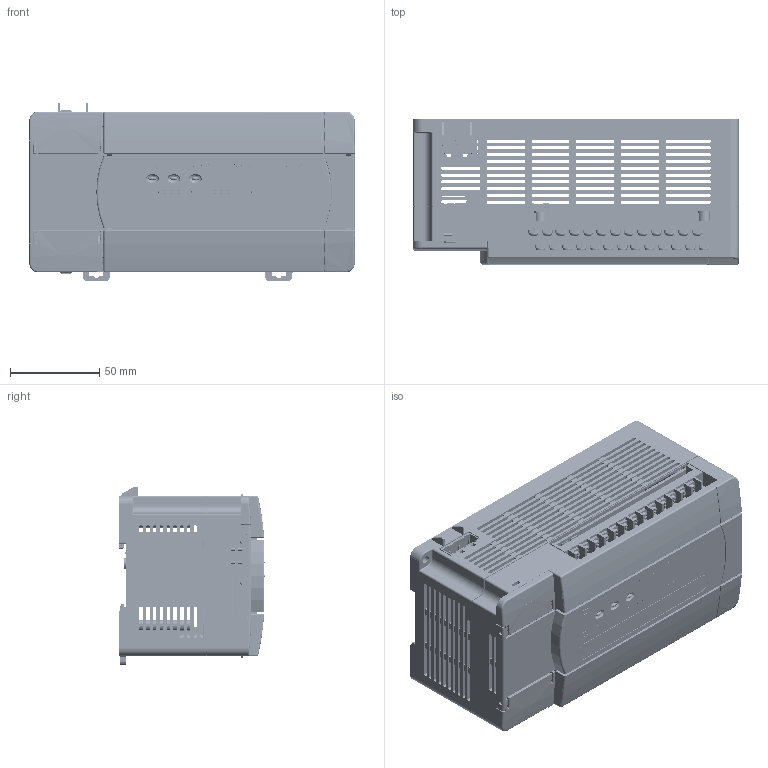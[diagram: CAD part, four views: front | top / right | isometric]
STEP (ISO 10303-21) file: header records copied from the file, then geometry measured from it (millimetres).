
FILE_DESCRIPTION((''),'2;1');
FILE_NAME('IVC1-2416MAT_ASM_ASM','2022-11-08T16:26:55',('Administrator'),(''),'CREO PARAMETRIC BY PTC INC, 2019080','CREO PARAMETRIC BY PTC INC, 2019080','');
FILE_SCHEMA(('CONFIG_CONTROL_DESIGN'));
Products named in the file (61): 80740051_4; 80740051SY2_ASM_3_ASM; 80880052_3; 40810010_ASM_3_ASM; 80740052_4; 80740052SY2_ASM_4_ASM; 80880058_4; 80880059_4; 80880050_4; 80880055_4; 80880053_3; 86400009_3; 86400008_3; 40810009_ASM_4_ASM; 2416_2; E-SR1206_2; E-SC0603_2; E-SOP4-100-173_2; E-SR0603_2; E-SD0805_2; E-SR1210_2; E-SC0805_2; E-SCD6_3X5_7_2; E-DSW5-H_2; E-PSW6-80T_2; E-SR2010_2; E-SC1206A_2; E-SR0805_2; E-SX2-1205_2; E-SC1210_2; E-SOP5-50-173_2; E-X2-80-W-B_2; E-SOT23-1A_2; E-SF3518_2; E-TP-RND0_7_2; E-RLY7-100-140_2; E-SL1307_2; E-SOP14-26-170_2; E-SOP16-50-157_2; E-IDC14-OTM_2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
Assembly tree (597 placements, depth 5):
  IVC1-2416MAT_ASM_ASM
    IVC1-2416MAT_ASM_6_ASM
      40810010_ASM_3_ASM
        80740051SY2_ASM_3_ASM
          80740051_4
        80880052_3  x2
      40810009_ASM_4_ASM
        80740052SY2_ASM_4_ASM
          80740052_4
        80880058_4
        80880059_4
        80880050_4
        80880055_4
        80880053_3
        86400009_3
        86400008_3  x5
      2416_ASM_2_ASM
        2416_2
        E-SR1206_2  x51
        E-SC0603_2  x133
        E-SOP4-100-173_2  x22
        E-SR0603_2  x214
        E-SD0805_2  x43
        E-SR1210_2
        E-SC0805_2  x8
        E-SCD6_3X5_7_2  x2
        E-DSW5-H_2
        E-PSW6-80T_2
        E-SR2010_2  x4
        E-SC1206A_2  x4
        E-SR0805_2  x8
        E-SX2-1205_2
        E-SC1210_2
        E-SOP5-50-173_2  x2
        E-X2-80-W-B_2
        E-SOT23-1A_2  x2
        E-SF3518_2  x4
        E-TP-RND0_7_2  x2
        E-RLY7-100-140_2  x16
        E-SL1307_2  x2
        E-SOP14-26-170_2  x7
        E-SOP16-50-157_2  x3
        E-IDC14-OTM_2
        E-HEAD0108-TA_2
        E-TB0213-300-365-TM_2  x2
        E-HEAD0207-TB_2
        E-PS2-10PIN_2
        E-DIN0105-5_08MM-TM_2
        E-SOT-DPAK_2
        E-SOT23_2  x10
        E-SL0805A_2  x4
        E-SOP8-50-157_2  x2
        E-QFP100-050-1414L_2
        E-SOP8-50-157A_2  x3
        E-SP-SMD60_2  x3
        E-SOP20-26-173_2
        E-SD2216_2  x6
        E-SOP16-26-180_2
        E-SBAT2-R6_8MM_2
      PLC_POWER_PCB_ASM_2_ASM
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Bounding box: 182 x 81.3 x 100 mm (x, y, z)
Volume: 286122.1 mm3; surface area: 300374.5 mm2
Topology: 590 solids, 598 shells, 29172 faces, 76388 edges, 48127 vertices
Faces by surface type: plane 19101, cylinder 7545, sphere 1476, torus 631, cone 317, bspline 68, extrusion 28, revolution 6
Entity records: 308011 total; most frequent: CARTESIAN_POINT 63656, ORIENTED_EDGE 51242, DIRECTION 50318, EDGE_CURVE 25628, VECTOR 19068, LINE 19040, VERTEX_POINT 16824, AXIS2_PLACEMENT_3D 15622
